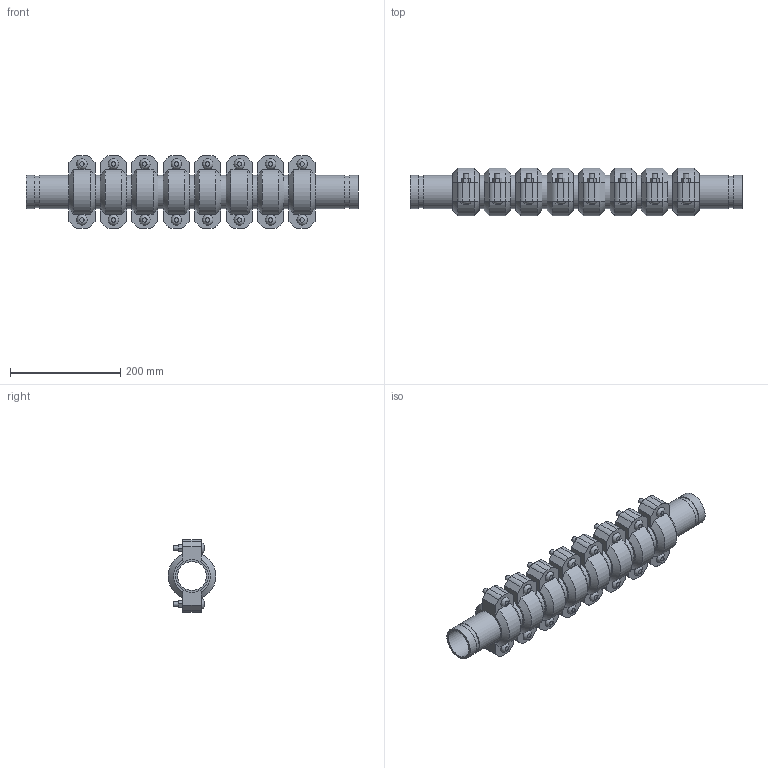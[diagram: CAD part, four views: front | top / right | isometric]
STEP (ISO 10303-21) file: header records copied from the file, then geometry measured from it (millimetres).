
FILE_DESCRIPTION(/* description */ ('VIC SS EXPANSION JOINT 8 COUPLINGS COMPRESSED STYLE 155P (OGS) (POTABLE WATER) ','CAx-IF Rec.Pracs.---Representation and Presentation of Product Manufacturing Information (PMI)---4.0---2014-10-13'),/* implementation_level */ '2;1');
FILE_NAME(/* name */ 'C:\Users\kkamble\AppData\Roaming\Autodesk\ApplicationPlugins\Victaulic.Temp\A39\Victaulic_SS_Expansion Joint_Compressed_8 Couplings_Style 155P (OGS)-Potable Water_8 Coup_Comp_2 (50).stp',/* time_stamp */ '2021-07-16T17:17:06+06:00',/* author */ ('kkamble'),/* organization */ ('Victaulic'),/* preprocessor_version */ 'ST-DEVELOPER v17.2',/* originating_system */ 'Autodesk Inventor 2019',/* authorisation */ '');
FILE_SCHEMA (('AP242_MANAGED_MODEL_BASED_3D_ENGINEERING_MIM_LF { 1 0 10303 442 1 1 4 }'));
Length unit declared in the file: inch
Products named in the file (4): 155P-02.0; Nipple-02.0; Nipple-02.0_1; 075-02.0
Assembly tree (17 placements, depth 2):
  155P-02.0
    Nipple-02.0  x2
    Nipple-02.0_1  x7
    075-02.0  x8
Bounding box: 603.25 x 87.12 x 132.59 mm (x, y, z)
Volume: 1976184.9 mm3; surface area: 545209.2 mm2
Topology: 17 solids, 33 shells, 532 faces, 1286 edges, 904 vertices
Faces by surface type: plane 326, cylinder 158, cone 32, bspline 16
Full cylindrical faces by diameter (mm): 9.525 x32, 11.43 x16, 52.502 x9, 57.15 x18, 60.325 x35
Entity records: 2737 total; most frequent: CARTESIAN_POINT 487, DIRECTION 459, ORIENTED_EDGE 374, EDGE_CURVE 187, AXIS2_PLACEMENT_3D 184, VERTEX_POINT 134, EDGE_LOOP 101, LINE 91
